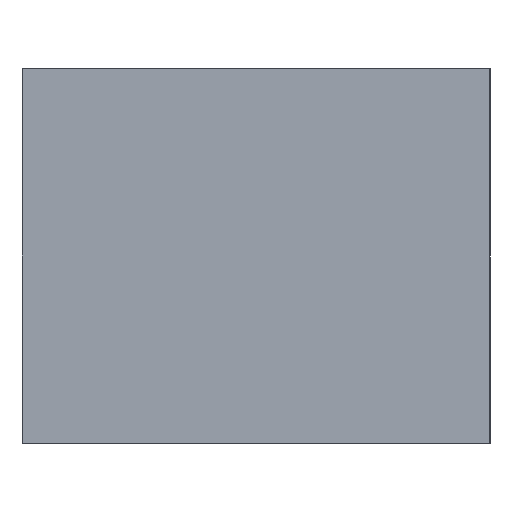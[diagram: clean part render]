
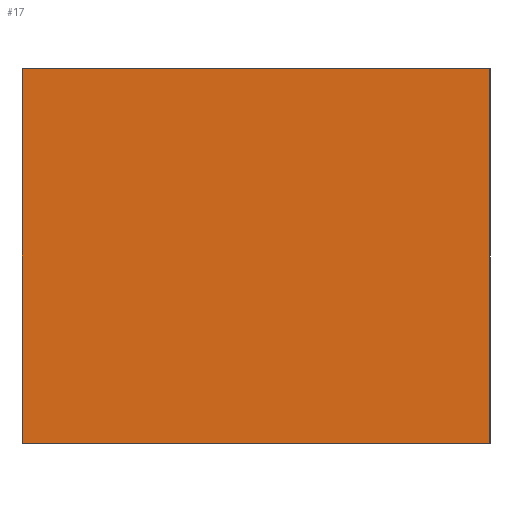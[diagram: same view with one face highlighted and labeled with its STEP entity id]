
A CAD part, left-side view. The second image highlights one B-rep face of the part: STEP entity #17.
In plain terms, the highlighted planar face has unit normal (-1, 0, 0).
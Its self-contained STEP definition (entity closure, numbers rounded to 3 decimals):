
#17 = ADVANCED_FACE('',(#18),#52,.F.);
#18 = FACE_BOUND('',#19,.F.);
#19 = EDGE_LOOP('',(#20,#30,#38,#46));
#20 = ORIENTED_EDGE('',*,*,#21,.F.);
#21 = EDGE_CURVE('',#22,#24,#26,.T.);
#22 = VERTEX_POINT('',#23);
#23 = CARTESIAN_POINT('',(0.,0.,0.));
#24 = VERTEX_POINT('',#25);
#25 = CARTESIAN_POINT('',(0.,0.,8.));
#26 = LINE('',#27,#28);
#27 = CARTESIAN_POINT('',(0.,0.,0.));
#28 = VECTOR('',#29,1.);
#29 = DIRECTION('',(0.,0.,1.));
#30 = ORIENTED_EDGE('',*,*,#31,.T.);
#31 = EDGE_CURVE('',#22,#32,#34,.T.);
#32 = VERTEX_POINT('',#33);
#33 = CARTESIAN_POINT('',(0.,10.,0.));
#34 = LINE('',#35,#36);
#35 = CARTESIAN_POINT('',(0.,0.,0.));
#36 = VECTOR('',#37,1.);
#37 = DIRECTION('',(-0.,1.,0.));
#38 = ORIENTED_EDGE('',*,*,#39,.T.);
#39 = EDGE_CURVE('',#32,#40,#42,.T.);
#40 = VERTEX_POINT('',#41);
#41 = CARTESIAN_POINT('',(0.,10.,8.));
#42 = LINE('',#43,#44);
#43 = CARTESIAN_POINT('',(0.,10.,0.));
#44 = VECTOR('',#45,1.);
#45 = DIRECTION('',(0.,0.,1.));
#46 = ORIENTED_EDGE('',*,*,#47,.F.);
#47 = EDGE_CURVE('',#24,#40,#48,.T.);
#48 = LINE('',#49,#50);
#49 = CARTESIAN_POINT('',(0.,0.,8.));
#50 = VECTOR('',#51,1.);
#51 = DIRECTION('',(-0.,1.,0.));
#52 = PLANE('',#53);
#53 = AXIS2_PLACEMENT_3D('',#54,#55,#56);
#54 = CARTESIAN_POINT('',(0.,0.,0.));
#55 = DIRECTION('',(1.,0.,-0.));
#56 = DIRECTION('',(0.,0.,1.));
